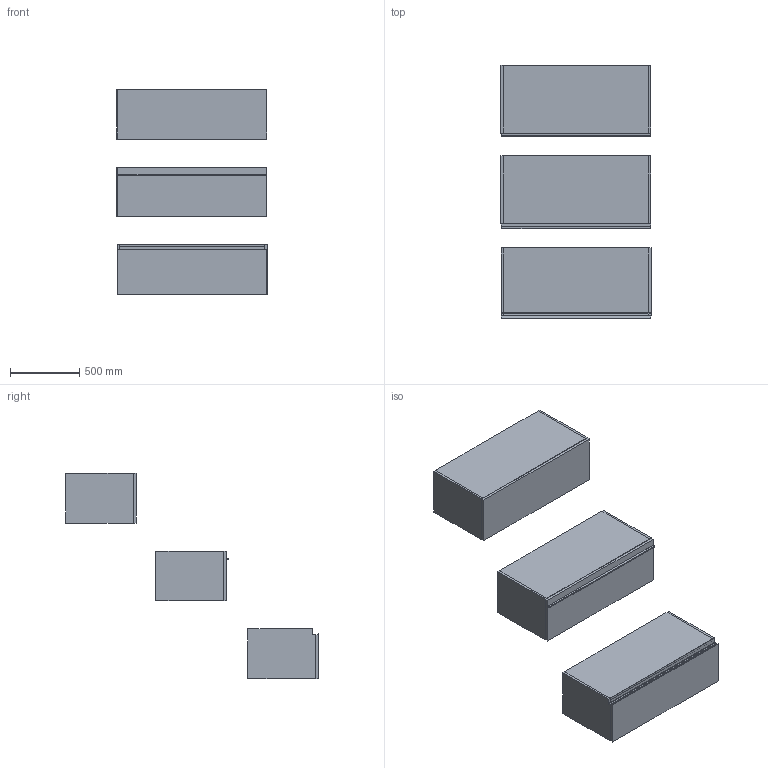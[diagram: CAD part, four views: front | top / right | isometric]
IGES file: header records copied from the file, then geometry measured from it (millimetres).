
Start section: Data from Parasolid IGES Translator 19.0.9, Copyright(c) 2006 Siemens PL M Software. All Rights Reserved.
Global section: file name: noorth-SI-H 36 D 51 W 108_8371.igs; native system: By Siemens PLM Incorporated; preprocessor: XPlus GENERIC/IGES 19.0.9; author: Noname; organization: Noname; date: 20200601.095601; units: metre
Bounding box: 1080.52 x 1820.15 x 1480 mm (x, y, z)
Volume: 89906987.5 mm3; surface area: 13318739.7 mm2
Topology: 20 solids, 20 shells, 178 faces, 382 edges, 234 vertices
Faces by surface type: plane 134, extrusion 16, bspline 16, cylinder 12
